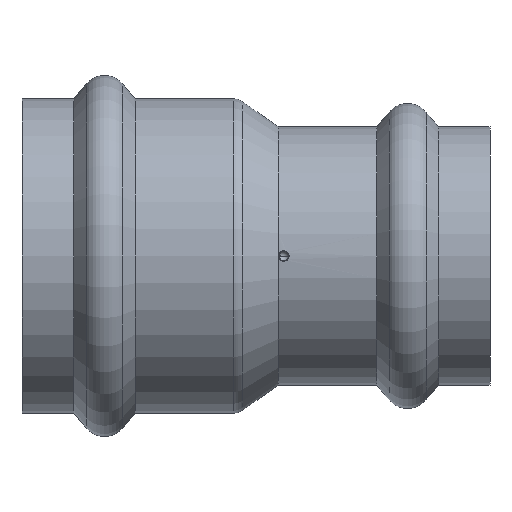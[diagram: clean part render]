
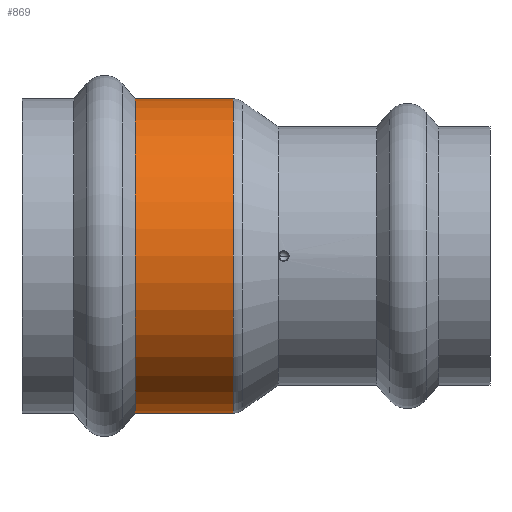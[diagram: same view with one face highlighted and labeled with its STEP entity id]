
A CAD part, front view. The second image highlights one B-rep face of the part: STEP entity #869.
In plain terms, the highlighted cylindrical face has radius 19.05 mm (diameter 38.1 mm), a partial arc.
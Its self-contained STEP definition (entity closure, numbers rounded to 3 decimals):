
#4 = VECTOR ( 'NONE', #1739, 1000. ) ;
#116 = DIRECTION ( 'NONE',  ( 0., 0., 1. ) ) ;
#148 = CARTESIAN_POINT ( 'NONE',  ( -55.519, 0., -19.05 ) ) ;
#192 = CARTESIAN_POINT ( 'NONE',  ( -55.519, 0., 0. ) ) ;
#201 = ORIENTED_EDGE ( 'NONE', *, *, #1465, .F. ) ;
#211 = CARTESIAN_POINT ( 'NONE',  ( -34.634, 0., 19.05 ) ) ;
#353 = DIRECTION ( 'NONE',  ( -1., 0., 0. ) ) ;
#371 = DIRECTION ( 'NONE',  ( -1., 0., 0. ) ) ;
#372 = CIRCLE ( 'NONE', #1345, 19.05 ) ;
#391 = LINE ( 'NONE', #148, #4 ) ;
#429 = CARTESIAN_POINT ( 'NONE',  ( -46.541, 0., 19.05 ) ) ;
#430 = AXIS2_PLACEMENT_3D ( 'NONE', #872, #1862, #1020 ) ;
#449 = EDGE_LOOP ( 'NONE', ( #729, #734, #1275, #201 ) ) ;
#478 = EDGE_CURVE ( 'NONE', #863, #939, #1291, .T. ) ;
#535 = CARTESIAN_POINT ( 'NONE',  ( -55.519, 0., 19.05 ) ) ;
#575 = EDGE_CURVE ( 'NONE', #732, #863, #708, .T. ) ;
#676 = CARTESIAN_POINT ( 'NONE',  ( -46.541, 0., 0. ) ) ;
#708 = CIRCLE ( 'NONE', #430, 19.05 ) ;
#729 = ORIENTED_EDGE ( 'NONE', *, *, #1696, .F. ) ;
#732 = VERTEX_POINT ( 'NONE', #1627 ) ;
#734 = ORIENTED_EDGE ( 'NONE', *, *, #575, .T. ) ;
#863 = VERTEX_POINT ( 'NONE', #211 ) ;
#869 = ADVANCED_FACE ( 'NONE', ( #1508 ), #1082, .T. ) ;
#872 = CARTESIAN_POINT ( 'NONE',  ( -34.634, 0., 0. ) ) ;
#899 = VECTOR ( 'NONE', #1408, 1000. ) ;
#939 = VERTEX_POINT ( 'NONE', #429 ) ;
#1007 = AXIS2_PLACEMENT_3D ( 'NONE', #192, #371, #116 ) ;
#1020 = DIRECTION ( 'NONE',  ( 0., 0., 1. ) ) ;
#1082 = CYLINDRICAL_SURFACE ( 'NONE', #1007, 19.05 ) ;
#1095 = CARTESIAN_POINT ( 'NONE',  ( -46.541, 0., -19.05 ) ) ;
#1129 = DIRECTION ( 'NONE',  ( 0., 0., 1. ) ) ;
#1275 = ORIENTED_EDGE ( 'NONE', *, *, #478, .T. ) ;
#1291 = LINE ( 'NONE', #535, #899 ) ;
#1345 = AXIS2_PLACEMENT_3D ( 'NONE', #676, #353, #1129 ) ;
#1390 = VERTEX_POINT ( 'NONE', #1095 ) ;
#1408 = DIRECTION ( 'NONE',  ( -1., 0., 0. ) ) ;
#1465 = EDGE_CURVE ( 'NONE', #1390, #939, #372, .T. ) ;
#1508 = FACE_OUTER_BOUND ( 'NONE', #449, .T. ) ;
#1627 = CARTESIAN_POINT ( 'NONE',  ( -34.634, 0., -19.05 ) ) ;
#1696 = EDGE_CURVE ( 'NONE', #732, #1390, #391, .T. ) ;
#1739 = DIRECTION ( 'NONE',  ( -1., 0., 0. ) ) ;
#1862 = DIRECTION ( 'NONE',  ( -1., 0., 0. ) ) ;
